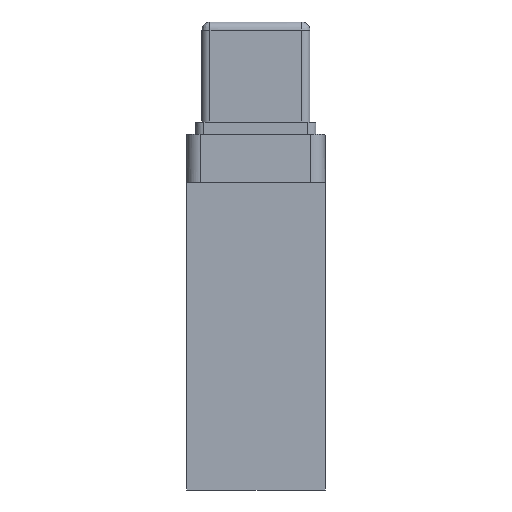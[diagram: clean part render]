
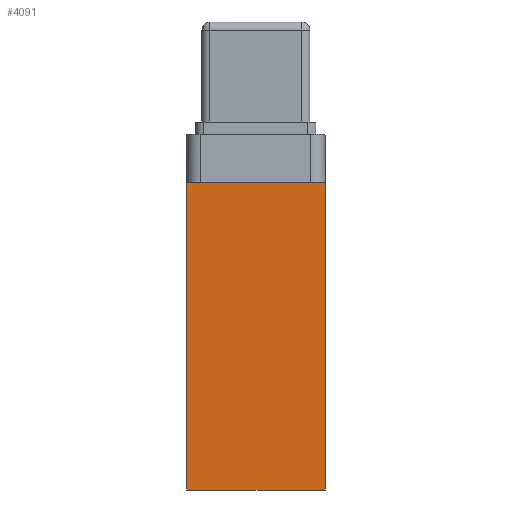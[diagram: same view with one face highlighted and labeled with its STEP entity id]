
A CAD part, left-side view. The second image highlights one B-rep face of the part: STEP entity #4091.
In plain terms, the highlighted free-form (B-spline) face has degree [1, 1] with [2, 2] control points.
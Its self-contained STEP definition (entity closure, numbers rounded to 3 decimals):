
#4056=CARTESIAN_POINT('F14',(-15.0,0.0,0.0));
#4057=CARTESIAN_POINT('F14',(-15.0,34.6,0.0));
#4058=CARTESIAN_POINT('F14',(-15.0,0.0,-77.0));
#4059=CARTESIAN_POINT('F14',(-15.0,34.6,-77.0));
#4060=B_SPLINE_SURFACE_WITH_KNOTS('F14',1,1,((#4056,#4058),(#4057,
   #4059)),.PLANE_SURF.,.F.,.F.,.U.,(2,2),(2,2),(0.0,1.0),(0.0,
   2.225),.UNSPECIFIED.);
#4061=CARTESIAN_POINT('V12',(-15.0,0.0,0.0));
#4062=VERTEX_POINT('V12',#4061);
#4063=CARTESIAN_POINT('V11',(-15.0,34.6,0.0));
#4064=VERTEX_POINT('V11',#4063);
#4065=CARTESIAN_POINT('E13',(-15.0,0.0,0.0));
#4066=CARTESIAN_POINT('E13',(-15.0,34.6,0.0));
#4067=QUASI_UNIFORM_CURVE('E13',1,(#4065,#4066),.POLYLINE_FORM.,.F.,
   .U.);
#4068=EDGE_CURVE('E13',#4062,#4064,#4067,.T.);
#4069=ORIENTED_EDGE('E13',*,*,#4068,.T.);
#4070=CARTESIAN_POINT('V26',(-15.0,34.6,-77.0));
#4071=VERTEX_POINT('V26',#4070);
#4072=CARTESIAN_POINT('E32',(-15.0,34.6,0.0));
#4073=CARTESIAN_POINT('E32',(-15.0,34.6,-77.0));
#4074=B_SPLINE_CURVE_WITH_KNOTS('E32',1,(#4072,#4073),
   .POLYLINE_FORM.,.F.,.U.,(2,2),(0.0,2.567),
   .UNSPECIFIED.);
#4075=EDGE_CURVE('E32',#4064,#4071,#4074,.T.);
#4076=ORIENTED_EDGE('E32',*,*,#4075,.T.);
#4077=CARTESIAN_POINT('V17',(-15.0,0.0,-77.0));
#4078=VERTEX_POINT('V17',#4077);
#4079=CARTESIAN_POINT('E48',(-15.0,34.6,-77.0));
#4080=CARTESIAN_POINT('E48',(-15.0,0.0,-77.0));
#4081=QUASI_UNIFORM_CURVE('E48',1,(#4079,#4080),.POLYLINE_FORM.,.F.,
   .U.);
#4082=EDGE_CURVE('E48',#4071,#4078,#4081,.T.);
#4083=ORIENTED_EDGE('E48',*,*,#4082,.T.);
#4084=CARTESIAN_POINT('E21',(-15.0,0.0,-77.0));
#4085=CARTESIAN_POINT('E21',(-15.0,0.0,0.0));
#4086=B_SPLINE_CURVE_WITH_KNOTS('E21',1,(#4084,#4085),
   .POLYLINE_FORM.,.F.,.U.,(2,2),(0.0,2.567),
   .UNSPECIFIED.);
#4087=EDGE_CURVE('E21',#4078,#4062,#4086,.T.);
#4088=ORIENTED_EDGE('E21',*,*,#4087,.T.);
#4089=EDGE_LOOP('F14',(#4069,#4076,#4083,#4088));
#4090=FACE_OUTER_BOUND('F14',#4089,.T.);
#4091=ADVANCED_FACE('F14',(#4090),#4060,.T.);
